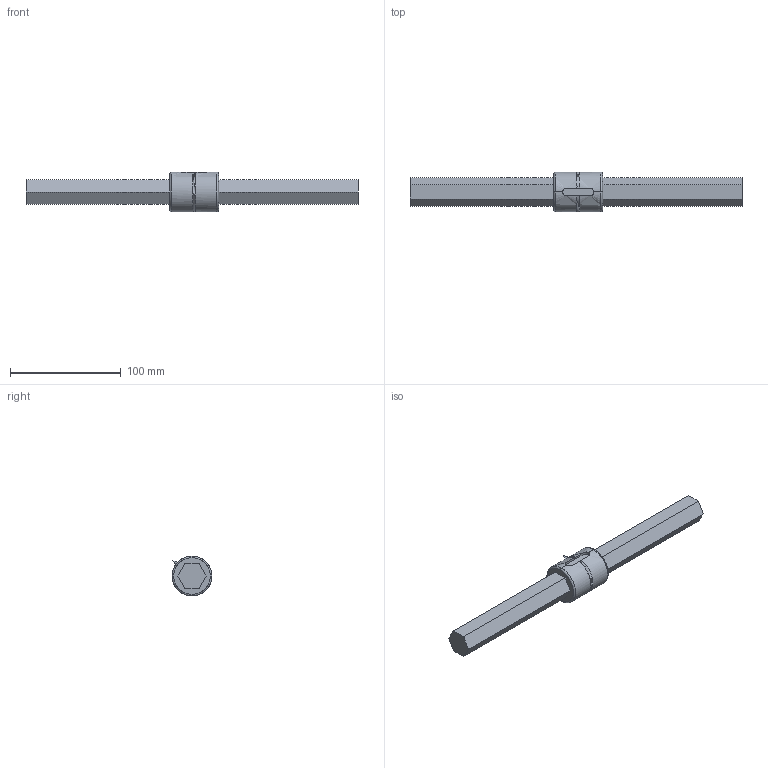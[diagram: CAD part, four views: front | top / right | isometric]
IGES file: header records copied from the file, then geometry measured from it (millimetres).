
Global section: file name: No Iges File Name specified; native system: AutoDesk Inventor R10; preprocessor: AutoDesk Inventor Iges Exporter R10; author: No Author specified; organization: No Organization specified; date: 20101224.163836; units: millimetre
Bounding box: 300 x 36 x 36 mm (x, y, z)
Surface area: 33211.7 mm2 (no closed solid volume)
Topology: 0 solids, 0 shells, 45 faces, 266 edges, 264 vertices
Faces by surface type: bspline 45
